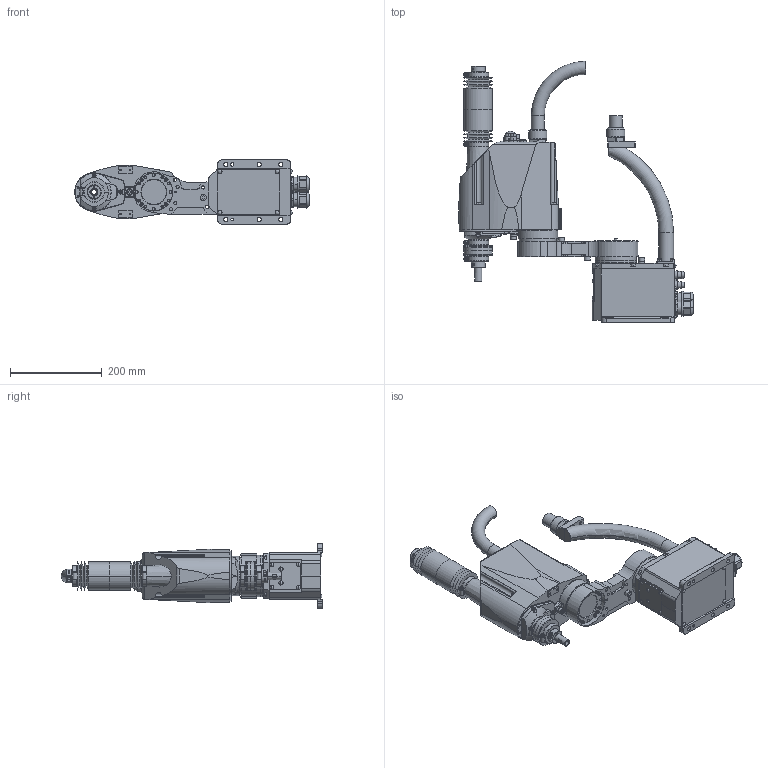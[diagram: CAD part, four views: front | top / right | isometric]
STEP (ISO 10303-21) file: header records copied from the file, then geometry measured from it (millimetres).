
FILE_DESCRIPTION( ( '' ), '1' );
FILE_NAME( '//expscmdclustefs.cadenas.external/client_exchange/iodir/jobs/output/wkb51507218_no0/STEP/G3_301C_R_2_14b.stp', '2012-11-22T13:54:45', ( '' ), ( '' ), ' ', ' ', ' ' );
FILE_SCHEMA( ( 'automotive_design' ) );
Length unit declared in the file: millimetre
Products named in the file (8): 1; 2; 3; 4; 5; 6; 7; 8
Bounding box: 511.5 x 570 x 140 mm (x, y, z)
Volume: 7970851.1 mm3; surface area: 641830.8 mm2
Topology: 8 solids, 8 shells, 1979 faces, 4792 edges, 3063 vertices
Faces by surface type: plane 942, cylinder 681, cone 229, torus 90, sphere 37
Entity records: 115422 total; most frequent: CARTESIAN_POINT 12612, DIRECTION 10471, STYLED_ITEM 9810, PRESENTATION_STYLE_ASSIGNMENT 9810, COLOUR_RGB 9810, ORIENTED_EDGE 9520, EDGE_CURVE 4760, CURVE_STYLE 4760
